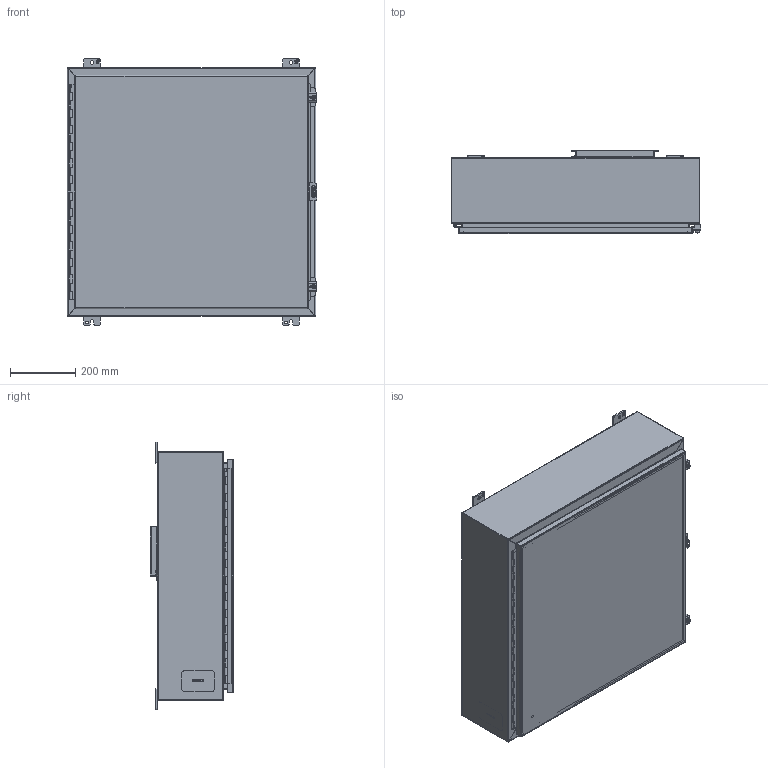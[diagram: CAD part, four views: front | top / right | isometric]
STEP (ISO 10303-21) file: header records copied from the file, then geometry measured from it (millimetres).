
FILE_DESCRIPTION(/* description */ ('Unknown'),/* implementation_level */ '2;1');
FILE_NAME(/* name */ '1418KK8LP',/* time_stamp */ '2026-02-20T16:33:33-05:00',/* author */ ('Unknown'),/* organization */ ('Unknown'),/* preprocessor_version */ 'ST-DEVELOPER v18.104',/* originating_system */ 'Solid Edge',/* authorisation */ 'Unknown');
FILE_SCHEMA (('AUTOMOTIVE_DESIGN {1 0 10303 214 3 1 1}'));
Length unit declared in the file: millimetre
Products named in the file (31): 1418KK8LP; STD26094; STD21878; COM42780; KIT90256; LAB30005; NTS165305; NTS16535; COM40153-1; COM71780-18; COM40153-2; HNG10620-26C; PNT11078; COM70219_oa_0; COM70021; FET07710; HNG10620-26B; AKT90223; SPR20265; SCC19011; WAF25035; COM42667; BUL10020; QLB30109; PKT99; KIT90518; WAF25059; NTS166105; HNG10620-26P; QLB20254
Assembly tree (41 placements, depth 3):
  1418KK8LP
    STD26094  x4
    STD21878
    COM42780  x2
    KIT90256
      LAB30005
      NTS165305
      NTS16535
    COM40153-1
    COM71780-18
      COM40153-2
      HNG10620-26C
      COM71780-18
      STD21878
      PNT11078
      COM70219_oa_0
    COM70021
    FET07710  x4
    HNG10620-26B
    AKT90223  x2
      SPR20265
      SCC19011
      WAF25035
      COM42667
    BUL10020
    QLB30109
    PKT99
    KIT90518
      WAF25059
      NTS166105
      LAB30005
    HNG10620-26P
    QLB20254
    PNT11078
Bounding box: 765.17 x 257.18 x 819.15 mm (x, y, z)
Volume: 3975676.5 mm3; surface area: 4289322.6 mm2
Topology: 35 solids, 36 shells, 1300 faces, 3315 edges, 2134 vertices
Faces by surface type: plane 870, cylinder 314, bspline 68, cone 26, torus 20, sphere 2
Full cylindrical faces by diameter (mm): 3.175 x1, 4.763 x1, 4.976 x1, 5.41 x2, 6.198 x2, 6.35 x3, 6.731 x2, 7.137 x2, 7.805 x1, 7.938 x4, 8.382 x4, 9.525 x4, 9.906 x2, 11.113 x4, 11.303 x1, 12.7 x2, 16.51 x4, 25.4 x1, 88.9 x1
Entity records: 34189 total; most frequent: CARTESIAN_POINT 10173, ORIENTED_EDGE 4878, DIRECTION 4448, EDGE_CURVE 2439, LINE 1608, VECTOR 1608, VERTEX_POINT 1577, AXIS2_PLACEMENT_3D 1420
